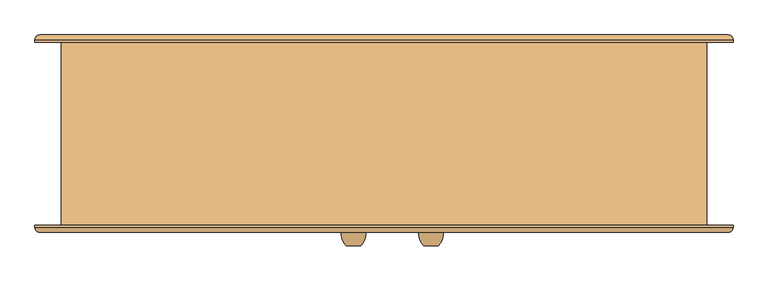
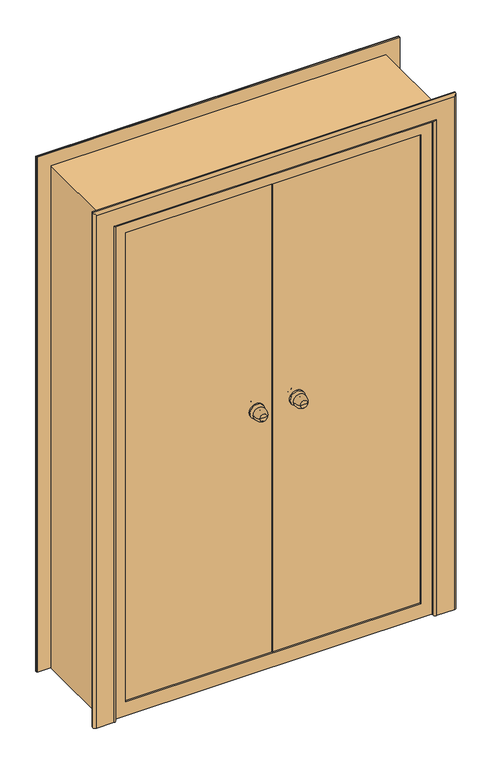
"""IFC4 building model written with IfcOpenShell, lengths in millimetres: door geometry, Наружная дверь 2-Навесная - Один проем наружу с порогом - 31173-2003 : ДСН ДКН М2 2100-1300 ГОСТ 31173-2003."""

from ifc_helpers import new_model, si_unit, point, frame, origin, place, context, project, spatial, polyline, circle_curve, ellipse_curve, trimmed, outline, extrude, faceted_brep, source, transform, mapped, element, save
from ifc_brep_helpers import plane_surface, cylinder_surface, revolved_surface, advanced_brep


def door_65913abd(model_context):
    return source(origin(), model_context, "Body", "SolidModel", [
        advanced_brep(
        [(113.0, -233.0, 1100.0), (83.0, -233.0, 1100.0), (98.0, -233.0, 1100.0), (123.0, -203.0, 1100.0), (73.0, -203.0, 1100.0), (116.0, -203.0, 1100.0), (80.0, -203.0, 1100.0), (108.0, -195.0, 1100.0), (88.0, -195.0, 1100.0), (108.0, -189.0, 1100.0), (88.0, -189.0, 1100.0), (68.0, -189.0, 1100.0), (128.0, -189.0, 1100.0), (68.0, -183.0, 1100.0), (128.0, -183.0, 1100.0)],
        [
            (0, 1, circle_curve(frame((98.0, -233.0, 1100.0), z_axis=(0.0, -1.0, 0.0), x_axis=(-1.0, 0.0, 0.0)), 15.0)),
            (1, 2),
            (2, 0),
            (1, 0, circle_curve(frame((98.0, -233.0, 1100.0), z_axis=(0.0, -1.0, 0.0), x_axis=(-1.0, 0.0, 0.0)), 15.0)),
            (0, 3, circle_curve(frame((88.3773735, -208.1257912, 1100.0), z_axis=(0.0, 0.0, 1.0), x_axis=(-1.0, 0.0, 0.0)), 35.0)),
            (3, 4, circle_curve(frame((98.0, -203.0, 1100.0), z_axis=(0.0, -1.0, 0.0), x_axis=(-1.0, 0.0, 0.0)), 25.0)),
            (4, 1, circle_curve(frame((107.6226265, -208.1257912, 1100.0), z_axis=(0.0, 0.0, 1.0), x_axis=(1.0, 0.0, 0.0)), 35.0)),
            (4, 3, circle_curve(frame((98.0, -203.0, 1100.0), z_axis=(0.0, -1.0, 0.0), x_axis=(-1.0, 0.0, 0.0)), 25.0)),
            (3, 5),
            (5, 6, circle_curve(frame((98.0, -203.0, 1100.0), z_axis=(0.0, -1.0, 0.0), x_axis=(-1.0, 0.0, 0.0)), 18.0)),
            (6, 4),
            (6, 5, circle_curve(frame((98.0, -203.0, 1100.0), z_axis=(0.0, -1.0, 0.0), x_axis=(-1.0, 0.0, 0.0)), 18.0)),
            (5, 7, circle_curve(frame((116.0, -195.0, 1100.0), z_axis=(0.0, 0.0, -1.0), x_axis=(-1.0, 0.0, 0.0)), 8.0)),
            (7, 8, circle_curve(frame((98.0, -195.0, 1100.0), z_axis=(0.0, -1.0, 0.0), x_axis=(-1.0, 0.0, 0.0)), 10.0)),
            (8, 6, circle_curve(frame((80.0, -195.0, 1100.0), z_axis=(0.0, 0.0, -1.0), x_axis=(1.0, 0.0, 0.0)), 8.0)),
            (8, 7, circle_curve(frame((98.0, -195.0, 1100.0), z_axis=(0.0, -1.0, 0.0), x_axis=(-1.0, 0.0, 0.0)), 10.0)),
            (7, 9),
            (9, 10, circle_curve(frame((98.0, -189.0, 1100.0), z_axis=(0.0, -1.0, 0.0), x_axis=(-1.0, 0.0, 0.0)), 10.0)),
            (10, 8),
            (10, 9, circle_curve(frame((98.0, -189.0, 1100.0), z_axis=(0.0, -1.0, 0.0), x_axis=(-1.0, 0.0, 0.0)), 10.0)),
            (11, 12, circle_curve(frame((98.0, -189.0, 1100.0), z_axis=(0.0, -1.0, 0.0), x_axis=(1.0, 0.0, 0.0)), 30.0)),
            (12, 11, circle_curve(frame((98.0, -189.0, 1100.0), z_axis=(0.0, -1.0, 0.0), x_axis=(1.0, 0.0, 0.0)), 30.0)),
            (13, 14, circle_curve(frame((98.0, -183.0, 1100.0), z_axis=(0.0, 1.0, 0.0), x_axis=(1.0, 0.0, 0.0)), 30.0)),
            (14, 13, circle_curve(frame((98.0, -183.0, 1100.0), z_axis=(0.0, 1.0, 0.0), x_axis=(1.0, 0.0, 0.0)), 30.0)),
            (11, 13),
            (14, 12),
        ],
        [
            plane_surface(frame((98.0, -233.0, 1100.0), z_axis=(0.0, -1.0, 0.0), x_axis=(-1.0, 0.0, 0.0))),
            revolved_surface(trimmed(ellipse_curve(frame((107.6226265, -208.1257912, 1100.0), z_axis=(0.0, 0.0, -1.0), x_axis=(1.0, 0.0, 0.0)), 35.0, 35.0), [point((83.0, -233.0, 1100.0))], [point((73.0, -203.0, 1100.0))], True, "CARTESIAN"), (98.0, -263.0, 1100.0), (0.0, 1.0, 0.0)),
            plane_surface(frame((98.0, -203.0, 1100.0), z_axis=(0.0, 1.0, 0.0), x_axis=(-1.0, 0.0, 0.0))),
            revolved_surface(trimmed(ellipse_curve(frame((80.0, -195.0, 1100.0), z_axis=(0.0, 0.0, 1.0), x_axis=(1.0, 0.0, 0.0)), 8.0, 8.0), [point((80.0, -203.0, 1100.0))], [point((88.0, -195.0, 1100.0))], True, "CARTESIAN"), (98.0, -263.0, 1100.0), (0.0, 1.0, 0.0)),
            cylinder_surface(frame((98.0, -263.0, 1100.0), z_axis=(0.0, 1.0, 0.0), x_axis=(-1.0, 0.0, 0.0)), 10.0),
            plane_surface(frame((128.0, -189.0, 1100.0), z_axis=(0.0, -1.0, 0.0), x_axis=(0.0, 0.0, 1.0))),
            plane_surface(frame((128.0, -183.0, 1100.0), z_axis=(0.0, 1.0, 0.0), x_axis=(0.0, 0.0, -1.0))),
            cylinder_surface(frame((98.0, -183.0, 1100.0), z_axis=(0.0, -1.0, 0.0), x_axis=(1.0, 0.0, 0.0)), 30.0),
        ],
        [
            (0, [[1, 2, 3]]),
            (0, [[-2, 4, -3]]),
            (1, [[-1, 5, 6, 7]]),
            (1, [[-4, -7, 8, -5]]),
            (2, [[-6, 9, 10, 11]]),
            (2, [[-8, -11, 12, -9]]),
            (3, [[-10, 13, 14, 15]]),
            (3, [[-12, -15, 16, -13]]),
            (4, [[-14, 17, 18, 19]]),
            (4, [[-16, -19, 20, -17]]),
            (5, [[21, 22], [-18, -20]]),
            (6, [[23, 24]]),
            (7, [[-21, 25, -24, 26]]),
            (7, [[-22, -26, -23, -25]]),
        ],
    ),
        advanced_brep(
        [(83.0, -93.0, 1100.0), (113.0, -93.0, 1100.0), (98.0, -93.0, 1100.0), (73.0, -123.0, 1100.0), (123.0, -123.0, 1100.0), (80.0, -123.0, 1100.0), (116.0, -123.0, 1100.0), (88.0, -131.0, 1100.0), (108.0, -131.0, 1100.0), (88.0, -137.0, 1100.0), (108.0, -137.0, 1100.0), (128.0, -137.0, 1100.0), (68.0, -137.0, 1100.0), (128.0, -143.0, 1100.0), (68.0, -143.0, 1100.0)],
        [
            (0, 1, circle_curve(frame((98.0, -93.0, 1100.0), z_axis=(0.0, 1.0, 0.0), x_axis=(1.0, 0.0, 0.0)), 15.0)),
            (1, 2),
            (2, 0),
            (1, 0, circle_curve(frame((98.0, -93.0, 1100.0), z_axis=(0.0, 1.0, 0.0), x_axis=(1.0, 0.0, 0.0)), 15.0)),
            (0, 3, circle_curve(frame((107.6226265, -117.8742088, 1100.0), z_axis=(0.0, 0.0, 1.0), x_axis=(1.0, 0.0, 0.0)), 35.0)),
            (3, 4, circle_curve(frame((98.0, -123.0, 1100.0), z_axis=(0.0, 1.0, 0.0), x_axis=(1.0, 0.0, 0.0)), 25.0)),
            (4, 1, circle_curve(frame((88.3773735, -117.8742088, 1100.0), z_axis=(0.0, 0.0, 1.0), x_axis=(-1.0, 0.0, 0.0)), 35.0)),
            (4, 3, circle_curve(frame((98.0, -123.0, 1100.0), z_axis=(0.0, 1.0, 0.0), x_axis=(1.0, 0.0, 0.0)), 25.0)),
            (3, 5),
            (5, 6, circle_curve(frame((98.0, -123.0, 1100.0), z_axis=(0.0, 1.0, 0.0), x_axis=(1.0, 0.0, 0.0)), 18.0)),
            (6, 4),
            (6, 5, circle_curve(frame((98.0, -123.0, 1100.0), z_axis=(0.0, 1.0, 0.0), x_axis=(1.0, 0.0, 0.0)), 18.0)),
            (5, 7, circle_curve(frame((80.0, -131.0, 1100.0), z_axis=(0.0, 0.0, -1.0), x_axis=(1.0, 0.0, 0.0)), 8.0)),
            (7, 8, circle_curve(frame((98.0, -131.0, 1100.0), z_axis=(0.0, 1.0, 0.0), x_axis=(1.0, 0.0, 0.0)), 10.0)),
            (8, 6, circle_curve(frame((116.0, -131.0, 1100.0), z_axis=(0.0, 0.0, -1.0), x_axis=(-1.0, 0.0, 0.0)), 8.0)),
            (8, 7, circle_curve(frame((98.0, -131.0, 1100.0), z_axis=(0.0, 1.0, 0.0), x_axis=(1.0, 0.0, 0.0)), 10.0)),
            (7, 9),
            (9, 10, circle_curve(frame((98.0, -137.0, 1100.0), z_axis=(0.0, 1.0, 0.0), x_axis=(1.0, 0.0, 0.0)), 10.0)),
            (10, 8),
            (10, 9, circle_curve(frame((98.0, -137.0, 1100.0), z_axis=(0.0, 1.0, 0.0), x_axis=(1.0, 0.0, 0.0)), 10.0)),
            (11, 12, circle_curve(frame((98.0, -137.0, 1100.0), z_axis=(0.0, 1.0, 0.0), x_axis=(-1.0, 0.0, 0.0)), 30.0)),
            (12, 11, circle_curve(frame((98.0, -137.0, 1100.0), z_axis=(0.0, 1.0, 0.0), x_axis=(-1.0, 0.0, 0.0)), 30.0)),
            (13, 14, circle_curve(frame((98.0, -143.0, 1100.0), z_axis=(0.0, -1.0, 0.0), x_axis=(-1.0, 0.0, 0.0)), 30.0)),
            (14, 13, circle_curve(frame((98.0, -143.0, 1100.0), z_axis=(0.0, -1.0, 0.0), x_axis=(-1.0, 0.0, 0.0)), 30.0)),
            (11, 13),
            (14, 12),
        ],
        [
            plane_surface(frame((98.0, -93.0, 1100.0), z_axis=(0.0, 1.0, 0.0), x_axis=(1.0, 0.0, 0.0))),
            revolved_surface(trimmed(ellipse_curve(frame((88.3773735, -117.8742088, 1100.0), z_axis=(0.0, 0.0, -1.0), x_axis=(-1.0, 0.0, 0.0)), 35.0, 35.0), [point((113.0, -93.0, 1100.0))], [point((123.0, -123.0, 1100.0))], True, "CARTESIAN"), (98.0, -63.0, 1100.0), (0.0, -1.0, 0.0)),
            plane_surface(frame((98.0, -123.0, 1100.0), z_axis=(0.0, -1.0, 0.0), x_axis=(1.0, 0.0, 0.0))),
            revolved_surface(trimmed(ellipse_curve(frame((116.0, -131.0, 1100.0), z_axis=(0.0, 0.0, 1.0), x_axis=(-1.0, 0.0, 0.0)), 8.0, 8.0), [point((116.0, -123.0, 1100.0))], [point((108.0, -131.0, 1100.0))], True, "CARTESIAN"), (98.0, -63.0, 1100.0), (0.0, -1.0, 0.0)),
            cylinder_surface(frame((98.0, -63.0, 1100.0), z_axis=(0.0, -1.0, 0.0), x_axis=(1.0, 0.0, 0.0)), 10.0),
            plane_surface(frame((68.0, -137.0, 1100.0), z_axis=(0.0, 1.0, 0.0), x_axis=(0.0, 0.0, 1.0))),
            plane_surface(frame((68.0, -143.0, 1100.0), z_axis=(0.0, -1.0, 0.0), x_axis=(0.0, 0.0, -1.0))),
            cylinder_surface(frame((98.0, -143.0, 1100.0), z_axis=(0.0, 1.0, 0.0), x_axis=(-1.0, 0.0, 0.0)), 30.0),
        ],
        [
            (0, [[1, 2, 3]]),
            (0, [[-2, 4, -3]]),
            (1, [[-1, 5, 6, 7]]),
            (1, [[-4, -7, 8, -5]]),
            (2, [[-6, 9, 10, 11]]),
            (2, [[-8, -11, 12, -9]]),
            (3, [[-10, 13, 14, 15]]),
            (3, [[-12, -15, 16, -13]]),
            (4, [[-14, 17, 18, 19]]),
            (4, [[-16, -19, 20, -17]]),
            (5, [[21, 22], [-18, -20]]),
            (6, [[23, 24]]),
            (7, [[-21, 25, -24, 26]]),
            (7, [[-22, -26, -23, -25]]),
        ],
    ),
        advanced_brep(
        [(-48.0, -233.0, 1100.0), (-78.0, -233.0, 1100.0), (-63.0, -233.0, 1100.0), (-38.0, -203.0, 1100.0), (-88.0, -203.0, 1100.0), (-45.0, -203.0, 1100.0), (-81.0, -203.0, 1100.0), (-53.0, -195.0, 1100.0), (-73.0, -195.0, 1100.0), (-53.0, -189.0, 1100.0), (-73.0, -189.0, 1100.0), (-93.0, -189.0, 1100.0), (-33.0, -189.0, 1100.0), (-93.0, -183.0, 1100.0), (-33.0, -183.0, 1100.0)],
        [
            (0, 1, circle_curve(frame((-63.0, -233.0, 1100.0), z_axis=(0.0, -1.0, 0.0), x_axis=(-1.0, 0.0, 0.0)), 15.0)),
            (1, 2),
            (2, 0),
            (1, 0, circle_curve(frame((-63.0, -233.0, 1100.0), z_axis=(0.0, -1.0, 0.0), x_axis=(-1.0, 0.0, 0.0)), 15.0)),
            (0, 3, circle_curve(frame((-72.6226265, -208.1257912, 1100.0), z_axis=(0.0, 0.0, 1.0), x_axis=(-1.0, 0.0, 0.0)), 35.0)),
            (3, 4, circle_curve(frame((-63.0, -203.0, 1100.0), z_axis=(0.0, -1.0, 0.0), x_axis=(-1.0, 0.0, 0.0)), 25.0)),
            (4, 1, circle_curve(frame((-53.3773735, -208.1257912, 1100.0), z_axis=(0.0, 0.0, 1.0), x_axis=(1.0, 0.0, 0.0)), 35.0)),
            (4, 3, circle_curve(frame((-63.0, -203.0, 1100.0), z_axis=(0.0, -1.0, 0.0), x_axis=(-1.0, 0.0, 0.0)), 25.0)),
            (3, 5),
            (5, 6, circle_curve(frame((-63.0, -203.0, 1100.0), z_axis=(0.0, -1.0, 0.0), x_axis=(-1.0, 0.0, 0.0)), 18.0)),
            (6, 4),
            (6, 5, circle_curve(frame((-63.0, -203.0, 1100.0), z_axis=(0.0, -1.0, 0.0), x_axis=(-1.0, 0.0, 0.0)), 18.0)),
            (5, 7, circle_curve(frame((-45.0, -195.0, 1100.0), z_axis=(0.0, 0.0, -1.0), x_axis=(-1.0, 0.0, 0.0)), 8.0)),
            (7, 8, circle_curve(frame((-63.0, -195.0, 1100.0), z_axis=(0.0, -1.0, 0.0), x_axis=(-1.0, 0.0, 0.0)), 10.0)),
            (8, 6, circle_curve(frame((-81.0, -195.0, 1100.0), z_axis=(0.0, 0.0, -1.0), x_axis=(1.0, 0.0, 0.0)), 8.0)),
            (8, 7, circle_curve(frame((-63.0, -195.0, 1100.0), z_axis=(0.0, -1.0, 0.0), x_axis=(-1.0, 0.0, 0.0)), 10.0)),
            (7, 9),
            (9, 10, circle_curve(frame((-63.0, -189.0, 1100.0), z_axis=(0.0, -1.0, 0.0), x_axis=(-1.0, 0.0, 0.0)), 10.0)),
            (10, 8),
            (10, 9, circle_curve(frame((-63.0, -189.0, 1100.0), z_axis=(0.0, -1.0, 0.0), x_axis=(-1.0, 0.0, 0.0)), 10.0)),
            (11, 12, circle_curve(frame((-63.0, -189.0, 1100.0), z_axis=(0.0, -1.0, 0.0), x_axis=(1.0, 0.0, 0.0)), 30.0)),
            (12, 11, circle_curve(frame((-63.0, -189.0, 1100.0), z_axis=(0.0, -1.0, 0.0), x_axis=(1.0, 0.0, 0.0)), 30.0)),
            (13, 14, circle_curve(frame((-63.0, -183.0, 1100.0), z_axis=(0.0, 1.0, 0.0), x_axis=(1.0, 0.0, 0.0)), 30.0)),
            (14, 13, circle_curve(frame((-63.0, -183.0, 1100.0), z_axis=(0.0, 1.0, 0.0), x_axis=(1.0, 0.0, 0.0)), 30.0)),
            (11, 13),
            (14, 12),
        ],
        [
            plane_surface(frame((-63.0, -233.0, 1100.0), z_axis=(0.0, -1.0, 0.0), x_axis=(-1.0, 0.0, 0.0))),
            revolved_surface(trimmed(ellipse_curve(frame((-53.3773735, -208.1257912, 1100.0), z_axis=(0.0, 0.0, -1.0), x_axis=(1.0, 0.0, 0.0)), 35.0, 35.0), [point((-78.0, -233.0, 1100.0))], [point((-88.0, -203.0, 1100.0))], True, "CARTESIAN"), (-63.0, -263.0, 1100.0), (0.0, 1.0, 0.0)),
            plane_surface(frame((-63.0, -203.0, 1100.0), z_axis=(0.0, 1.0, 0.0), x_axis=(-1.0, 0.0, 0.0))),
            revolved_surface(trimmed(ellipse_curve(frame((-81.0, -195.0, 1100.0), z_axis=(0.0, 0.0, 1.0), x_axis=(1.0, 0.0, 0.0)), 8.0, 8.0), [point((-81.0, -203.0, 1100.0))], [point((-73.0, -195.0, 1100.0))], True, "CARTESIAN"), (-63.0, -263.0, 1100.0), (0.0, 1.0, 0.0)),
            cylinder_surface(frame((-63.0, -263.0, 1100.0), z_axis=(0.0, 1.0, 0.0), x_axis=(-1.0, 0.0, 0.0)), 10.0),
            plane_surface(frame((-33.0, -189.0, 1100.0), z_axis=(0.0, -1.0, 0.0), x_axis=(0.0, 0.0, 1.0))),
            plane_surface(frame((-33.0, -183.0, 1100.0), z_axis=(0.0, 1.0, 0.0), x_axis=(0.0, 0.0, -1.0))),
            cylinder_surface(frame((-63.0, -183.0, 1100.0), z_axis=(0.0, -1.0, 0.0), x_axis=(1.0, 0.0, 0.0)), 30.0),
        ],
        [
            (0, [[1, 2, 3]]),
            (0, [[-2, 4, -3]]),
            (1, [[-1, 5, 6, 7]]),
            (1, [[-4, -7, 8, -5]]),
            (2, [[-6, 9, 10, 11]]),
            (2, [[-8, -11, 12, -9]]),
            (3, [[-10, 13, 14, 15]]),
            (3, [[-12, -15, 16, -13]]),
            (4, [[-14, 17, 18, 19]]),
            (4, [[-16, -19, 20, -17]]),
            (5, [[21, 22], [-18, -20]]),
            (6, [[23, 24]]),
            (7, [[-21, 25, -24, 26]]),
            (7, [[-22, -26, -23, -25]]),
        ],
    ),
        advanced_brep(
        [(-78.0, -93.0, 1100.0), (-48.0, -93.0, 1100.0), (-63.0, -93.0, 1100.0), (-88.0, -123.0, 1100.0), (-38.0, -123.0, 1100.0), (-81.0, -123.0, 1100.0), (-45.0, -123.0, 1100.0), (-73.0, -131.0, 1100.0), (-53.0, -131.0, 1100.0), (-73.0, -137.0, 1100.0), (-53.0, -137.0, 1100.0), (-33.0, -137.0, 1100.0), (-93.0, -137.0, 1100.0), (-33.0, -143.0, 1100.0), (-93.0, -143.0, 1100.0)],
        [
            (0, 1, circle_curve(frame((-63.0, -93.0, 1100.0), z_axis=(0.0, 1.0, 0.0), x_axis=(1.0, 0.0, 0.0)), 15.0)),
            (1, 2),
            (2, 0),
            (1, 0, circle_curve(frame((-63.0, -93.0, 1100.0), z_axis=(0.0, 1.0, 0.0), x_axis=(1.0, 0.0, 0.0)), 15.0)),
            (0, 3, circle_curve(frame((-53.3773735, -117.8742088, 1100.0), z_axis=(0.0, 0.0, 1.0), x_axis=(1.0, 0.0, 0.0)), 35.0)),
            (3, 4, circle_curve(frame((-63.0, -123.0, 1100.0), z_axis=(0.0, 1.0, 0.0), x_axis=(1.0, 0.0, 0.0)), 25.0)),
            (4, 1, circle_curve(frame((-72.6226265, -117.8742088, 1100.0), z_axis=(0.0, 0.0, 1.0), x_axis=(-1.0, 0.0, 0.0)), 35.0)),
            (4, 3, circle_curve(frame((-63.0, -123.0, 1100.0), z_axis=(0.0, 1.0, 0.0), x_axis=(1.0, 0.0, 0.0)), 25.0)),
            (3, 5),
            (5, 6, circle_curve(frame((-63.0, -123.0, 1100.0), z_axis=(0.0, 1.0, 0.0), x_axis=(1.0, 0.0, 0.0)), 18.0)),
            (6, 4),
            (6, 5, circle_curve(frame((-63.0, -123.0, 1100.0), z_axis=(0.0, 1.0, 0.0), x_axis=(1.0, 0.0, 0.0)), 18.0)),
            (5, 7, circle_curve(frame((-81.0, -131.0, 1100.0), z_axis=(0.0, 0.0, -1.0), x_axis=(1.0, 0.0, 0.0)), 8.0)),
            (7, 8, circle_curve(frame((-63.0, -131.0, 1100.0), z_axis=(0.0, 1.0, 0.0), x_axis=(1.0, 0.0, 0.0)), 10.0)),
            (8, 6, circle_curve(frame((-45.0, -131.0, 1100.0), z_axis=(0.0, 0.0, -1.0), x_axis=(-1.0, 0.0, 0.0)), 8.0)),
            (8, 7, circle_curve(frame((-63.0, -131.0, 1100.0), z_axis=(0.0, 1.0, 0.0), x_axis=(1.0, 0.0, 0.0)), 10.0)),
            (7, 9),
            (9, 10, circle_curve(frame((-63.0, -137.0, 1100.0), z_axis=(0.0, 1.0, 0.0), x_axis=(1.0, 0.0, 0.0)), 10.0)),
            (10, 8),
            (10, 9, circle_curve(frame((-63.0, -137.0, 1100.0), z_axis=(0.0, 1.0, 0.0), x_axis=(1.0, 0.0, 0.0)), 10.0)),
            (11, 12, circle_curve(frame((-63.0, -137.0, 1100.0), z_axis=(0.0, 1.0, 0.0), x_axis=(-1.0, 0.0, 0.0)), 30.0)),
            (12, 11, circle_curve(frame((-63.0, -137.0, 1100.0), z_axis=(0.0, 1.0, 0.0), x_axis=(-1.0, 0.0, 0.0)), 30.0)),
            (13, 14, circle_curve(frame((-63.0, -143.0, 1100.0), z_axis=(0.0, -1.0, 0.0), x_axis=(-1.0, 0.0, 0.0)), 30.0)),
            (14, 13, circle_curve(frame((-63.0, -143.0, 1100.0), z_axis=(0.0, -1.0, 0.0), x_axis=(-1.0, 0.0, 0.0)), 30.0)),
            (11, 13),
            (14, 12),
        ],
        [
            plane_surface(frame((-63.0, -93.0, 1100.0), z_axis=(0.0, 1.0, 0.0), x_axis=(1.0, 0.0, 0.0))),
            revolved_surface(trimmed(ellipse_curve(frame((-72.6226265, -117.8742088, 1100.0), z_axis=(0.0, 0.0, -1.0), x_axis=(-1.0, 0.0, 0.0)), 35.0, 35.0), [point((-48.0, -93.0, 1100.0))], [point((-38.0, -123.0, 1100.0))], True, "CARTESIAN"), (-63.0, -63.0, 1100.0), (0.0, -1.0, 0.0)),
            plane_surface(frame((-63.0, -123.0, 1100.0), z_axis=(0.0, -1.0, 0.0), x_axis=(1.0, 0.0, 0.0))),
            revolved_surface(trimmed(ellipse_curve(frame((-45.0, -131.0, 1100.0), z_axis=(0.0, 0.0, 1.0), x_axis=(-1.0, 0.0, 0.0)), 8.0, 8.0), [point((-45.0, -123.0, 1100.0))], [point((-53.0, -131.0, 1100.0))], True, "CARTESIAN"), (-63.0, -63.0, 1100.0), (0.0, -1.0, 0.0)),
            cylinder_surface(frame((-63.0, -63.0, 1100.0), z_axis=(0.0, -1.0, 0.0), x_axis=(1.0, 0.0, 0.0)), 10.0),
            plane_surface(frame((-93.0, -137.0, 1100.0), z_axis=(0.0, 1.0, 0.0), x_axis=(0.0, 0.0, 1.0))),
            plane_surface(frame((-93.0, -143.0, 1100.0), z_axis=(0.0, -1.0, 0.0), x_axis=(0.0, 0.0, -1.0))),
            cylinder_surface(frame((-63.0, -143.0, 1100.0), z_axis=(0.0, 1.0, 0.0), x_axis=(-1.0, 0.0, 0.0)), 30.0),
        ],
        [
            (0, [[1, 2, 3]]),
            (0, [[-2, 4, -3]]),
            (1, [[-1, 5, 6, 7]]),
            (1, [[-4, -7, 8, -5]]),
            (2, [[-6, 9, 10, 11]]),
            (2, [[-8, -11, 12, -9]]),
            (3, [[-10, 13, 14, 15]]),
            (3, [[-12, -15, 16, -13]]),
            (4, [[-14, 17, 18, 19]]),
            (4, [[-16, -19, 20, -17]]),
            (5, [[21, 22], [-18, -20]]),
            (6, [[23, 24]]),
            (7, [[-21, 25, -24, 26]]),
            (7, [[-22, -26, -23, -25]]),
        ],
    ),
        faceted_brep([(38.0, -143.0, 25.0), (625.0, -143.0, 25.0), (625.0, -148.0, 25.0), (38.0, -148.0, 25.0), (38.0, -143.0, 2075.0), (625.0, -143.0, 2075.0), (625.0, -148.0, 2075.0), (38.0, -148.0, 2075.0), (38.0, -148.0, 2055.0), (605.0, -148.0, 2055.0), (605.0, -148.0, 45.0), (38.0, -148.0, 45.0), (38.0, -164.0, 45.0), (38.0, -164.0, 2055.0), (605.0, -183.0, 2055.0), (605.0, -183.0, 45.0), (3.0, -183.0, 45.0), (3.0, -164.0, 45.0), (3.0, -183.0, 2055.0), (3.0, -164.0, 2055.0)], [[[0, 1, 2, 3]], [[4, 5, 1, 0]], [[5, 6, 2, 1]], [[6, 7, 8, 9, 10, 11, 3, 2]], [[4, 0, 3, 11, 12, 13, 8, 7]], [[9, 14, 15, 10]], [[11, 10, 15, 16, 17, 12]], [[14, 18, 16, 15]], [[18, 19, 17, 16]], [[19, 13, 12, 17]], [[9, 8, 13, 19, 18, 14]], [[6, 5, 4, 7]]]),
        faceted_brep([(32.0, -148.0, 25.0), (-625.0, -148.0, 25.0), (-625.0, -143.0, 25.0), (32.0, -143.0, 25.0), (32.0, -148.0, 45.0), (-605.0, -148.0, 45.0), (-605.0, -148.0, 2055.0), (32.0, -148.0, 2055.0), (32.0, -148.0, 2075.0), (-625.0, -148.0, 2075.0), (-625.0, -143.0, 2075.0), (32.0, -143.0, 2075.0), (32.0, -158.0, 2055.0), (32.0, -158.0, 45.0), (-3.0, -158.0, 45.0), (-3.0, -183.0, 45.0), (-605.0, -183.0, 45.0), (-605.0, -183.0, 2055.0), (-3.0, -183.0, 2055.0), (-3.0, -158.0, 2055.0)], [[[0, 1, 2, 3]], [[0, 4, 5, 6, 7, 8, 9, 1]], [[1, 9, 10, 2]], [[10, 11, 3, 2]], [[3, 11, 8, 7, 12, 13, 4, 0]], [[5, 4, 13, 14, 15, 16]], [[17, 6, 5, 16]], [[18, 17, 16, 15]], [[19, 18, 15, 14]], [[12, 19, 14, 13]], [[11, 10, 9, 8]], [[7, 6, 17, 18, 19, 12]]]),
        extrude(outline(polyline([(0.0, 635.0), (0.0, 650.0), (2100.0, 650.0), (2100.0, -650.0), (0.0, -650.0), (0.0, -635.0), (2085.0, -635.0), (2085.0, 635.0), (0.0, 635.0)])), frame((0.0, -150.0, 0.0), z_axis=(0.0, 1.0, 0.0), x_axis=(0.0, 0.0, 1.0)), (0.0, 0.0, 1.0), 340.0),
        faceted_brep([(650.0, -150.0, 0.0), (650.0, -190.0, 0.0), (-650.0, -190.0, 0.0), (-650.0, -150.0, 0.0), (-650.0, -190.0, 2100.0), (-650.0, -150.0, 2100.0), (650.0, -190.0, 2100.0), (-590.0, -190.0, 2040.0), (590.0, -190.0, 2040.0), (590.0, -190.0, 60.0), (-590.0, -190.0, 60.0), (650.0, -150.0, 2100.0), (-610.0, -150.0, 40.0), (610.0, -150.0, 40.0), (610.0, -150.0, 2060.0), (-610.0, -150.0, 2060.0), (610.0, -185.0, 40.0), (-610.0, -185.0, 40.0), (-610.0, -185.0, 2060.0), (610.0, -185.0, 2060.0), (-590.0, -185.0, 60.0), (590.0, -185.0, 60.0), (590.0, -185.0, 2040.0), (-590.0, -185.0, 2040.0)], [[[0, 1, 2, 3]], [[3, 2, 4, 5]], [[2, 1, 6, 4], [7, 8, 9, 10]], [[5, 11, 0, 3], [12, 13, 14, 15]], [[16, 13, 12, 17]], [[17, 12, 15, 18]], [[18, 19, 16, 17], [20, 21, 22, 23]], [[9, 21, 20, 10]], [[10, 20, 23, 7]], [[11, 6, 1, 0]], [[19, 14, 13, 16]], [[8, 22, 21, 9]], [[5, 4, 6, 11]], [[18, 15, 14, 19]], [[7, 23, 22, 8]]]),
        advanced_brep(
        [(-725.0, -190.0, 0.0), (-635.0, -190.0, 0.0), (-635.0, -195.0, 0.0), (-645.0, -205.0, 0.0), (-715.0, -205.0, 0.0), (-725.0, -195.0, 0.0), (-725.0, -190.0, 2175.0), (725.0, -190.0, 2175.0), (725.0, -190.0, 0.0), (635.0, -190.0, 0.0), (635.0, -190.0, 2085.0), (-635.0, -190.0, 2085.0), (-635.0, -195.0, 2085.0), (-645.0, -205.0, 2095.0), (645.0, -205.0, 2095.0), (645.0, -205.0, 0.0), (715.0, -205.0, 0.0), (715.0, -205.0, 2165.0), (-715.0, -205.0, 2165.0), (-725.0, -195.0, 2175.0), (725.0, -195.0, 2175.0), (725.0, -195.0, 0.0), (635.0, -195.0, 0.0), (635.0, -195.0, 2085.0)],
        [
            (0, 1),
            (1, 2),
            (2, 3, circle_curve(frame((-645.0, -195.0, 0.0), z_axis=(0.0, 0.0, -1.0), x_axis=(-1.0, 0.0, 0.0)), 10.0)),
            (3, 4),
            (4, 5, circle_curve(frame((-715.0, -195.0, 0.0), z_axis=(0.0, 0.0, -1.0), x_axis=(-1.0, 0.0, 0.0)), 10.0)),
            (5, 0),
            (0, 6),
            (6, 7),
            (7, 8),
            (8, 9),
            (9, 10),
            (10, 11),
            (11, 1),
            (11, 12),
            (12, 2),
            (12, 13, ellipse_curve(frame((-645.0, -195.0, 2095.0), z_axis=(-0.7071067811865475, 0.0, -0.7071067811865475), x_axis=(0.7071067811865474, 0.0, -0.7071067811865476)), 14.1421356, 10.0)),
            (13, 3),
            (13, 14),
            (14, 15),
            (15, 16),
            (16, 17),
            (17, 18),
            (18, 4),
            (18, 19, ellipse_curve(frame((-715.0, -195.0, 2165.0), z_axis=(-0.7071067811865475, 0.0, -0.7071067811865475), x_axis=(0.7071067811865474, 0.0, -0.7071067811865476)), 14.1421356, 10.0)),
            (19, 5),
            (19, 6),
            (7, 20),
            (20, 21),
            (21, 8),
            (21, 16, circle_curve(frame((715.0, -195.0, 0.0), z_axis=(0.0, 0.0, -1.0), x_axis=(1.0, 0.0, 0.0)), 10.0)),
            (15, 22, circle_curve(frame((645.0, -195.0, 0.0), z_axis=(0.0, 0.0, -1.0), x_axis=(1.0, 0.0, 0.0)), 10.0)),
            (22, 9),
            (23, 10),
            (22, 23),
            (14, 23, ellipse_curve(frame((645.0, -195.0, 2095.0), z_axis=(0.7071067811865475, 0.0, -0.7071067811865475), x_axis=(0.7071067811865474, 0.0, 0.7071067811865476)), 14.1421356, 10.0)),
            (20, 17, ellipse_curve(frame((715.0, -195.0, 2165.0), z_axis=(0.7071067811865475, 0.0, -0.7071067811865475), x_axis=(0.7071067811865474, 0.0, 0.7071067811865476)), 14.1421356, 10.0)),
            (23, 12),
            (20, 19),
        ],
        [
            plane_surface(frame((-670.0, -190.0, 0.0), z_axis=(0.0, 0.0, -1.0), x_axis=(0.0, -1.0, 0.0))),
            plane_surface(frame((-725.0, -190.0, 0.0), z_axis=(0.0, 1.0, 0.0), x_axis=(0.0, 0.0, 1.0))),
            plane_surface(frame((-635.0, -190.0, 0.0), z_axis=(1.0, 0.0, 0.0), x_axis=(0.0, 0.0, 1.0))),
            cylinder_surface(frame((-645.0, -195.0, 0.0), z_axis=(0.0, 0.0, -1.0), x_axis=(-1.0, 0.0, 0.0)), 10.0),
            plane_surface(frame((-645.0, -205.0, 0.0), z_axis=(0.0, -1.0, 0.0), x_axis=(0.0, 0.0, 1.0))),
            cylinder_surface(frame((-715.0, -195.0, 0.0), z_axis=(0.0, 0.0, -1.0), x_axis=(-1.0, 0.0, 0.0)), 10.0),
            plane_surface(frame((-725.0, -195.0, 0.0), z_axis=(-1.0, 0.0, 0.0), x_axis=(0.0, 0.0, 1.0))),
            plane_surface(frame((725.0, -195.0, 2175.0), z_axis=(1.0, 0.0, 0.0), x_axis=(0.0, 0.0, -1.0))),
            plane_surface(frame((670.0, -190.0, 0.0), z_axis=(0.0, 0.0, -1.0), x_axis=(0.0, -1.0, 0.0))),
            plane_surface(frame((635.0, -190.0, 2085.0), z_axis=(-1.0, 0.0, 0.0), x_axis=(0.0, 0.0, -1.0))),
            cylinder_surface(frame((645.0, -195.0, 2120.0), z_axis=(0.0, 0.0, 1.0), x_axis=(1.0, 0.0, 0.0)), 10.0),
            cylinder_surface(frame((715.0, -195.0, 2120.0), z_axis=(0.0, 0.0, 1.0), x_axis=(1.0, 0.0, 0.0)), 10.0),
            plane_surface(frame((-635.0, -190.0, 2085.0), z_axis=(0.0, 0.0, -1.0), x_axis=(1.0, 0.0, 0.0))),
            cylinder_surface(frame((-670.0, -195.0, 2095.0), z_axis=(-1.0, 0.0, 0.0), x_axis=(0.0, 0.0, 1.0)), 10.0),
            cylinder_surface(frame((-670.0, -195.0, 2165.0), z_axis=(-1.0, 0.0, 0.0), x_axis=(0.0, 0.0, 1.0)), 10.0),
            plane_surface(frame((-725.0, -195.0, 2175.0), z_axis=(0.0, 0.0, 1.0), x_axis=(1.0, 0.0, 0.0))),
        ],
        [
            (0, [[1, 2, 3, 4, 5, 6]]),
            (1, [[-1, 7, 8, 9, 10, 11, 12, 13]]),
            (2, [[-2, -13, 14, 15]]),
            (3, [[-3, -15, 16, 17]]),
            (4, [[-4, -17, 18, 19, 20, 21, 22, 23]]),
            (5, [[-5, -23, 24, 25]]),
            (6, [[-6, -25, 26, -7]]),
            (7, [[27, 28, 29, -9]]),
            (8, [[-29, 30, -20, 31, 32, -10]]),
            (9, [[33, -11, -32, 34]]),
            (10, [[35, -34, -31, -19]]),
            (11, [[36, -21, -30, -28]]),
            (12, [[-14, -12, -33, 37]]),
            (13, [[-16, -37, -35, -18]]),
            (14, [[-24, -22, -36, 38]]),
            (15, [[-26, -38, -27, -8]]),
        ],
    ),
        advanced_brep(
        [(725.0, 190.0, 0.0), (635.0, 190.0, 0.0), (635.0, 195.0, 0.0), (645.0, 205.0, 0.0), (715.0, 205.0, 0.0), (725.0, 195.0, 0.0), (725.0, 190.0, 2175.0), (-725.0, 190.0, 2175.0), (-725.0, 190.0, 0.0), (-635.0, 190.0, 0.0), (-635.0, 190.0, 2085.0), (635.0, 190.0, 2085.0), (635.0, 195.0, 2085.0), (645.0, 205.0, 2095.0), (-645.0, 205.0, 2095.0), (-645.0, 205.0, 0.0), (-715.0, 205.0, 0.0), (-715.0, 205.0, 2165.0), (715.0, 205.0, 2165.0), (725.0, 195.0, 2175.0), (-725.0, 195.0, 2175.0), (-725.0, 195.0, 0.0), (-635.0, 195.0, 0.0), (-635.0, 195.0, 2085.0)],
        [
            (0, 1),
            (1, 2),
            (2, 3, circle_curve(frame((645.0, 195.0, 0.0), z_axis=(0.0, 0.0, -1.0), x_axis=(1.0, 0.0, 0.0)), 10.0)),
            (3, 4),
            (4, 5, circle_curve(frame((715.0, 195.0, 0.0), z_axis=(0.0, 0.0, -1.0), x_axis=(1.0, 0.0, 0.0)), 10.0)),
            (5, 0),
            (0, 6),
            (6, 7),
            (7, 8),
            (8, 9),
            (9, 10),
            (10, 11),
            (11, 1),
            (11, 12),
            (12, 2),
            (12, 13, ellipse_curve(frame((645.0, 195.0, 2095.0), z_axis=(0.7071067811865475, 0.0, -0.7071067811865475), x_axis=(-0.7071067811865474, 0.0, -0.7071067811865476)), 14.1421356, 10.0)),
            (13, 3),
            (13, 14),
            (14, 15),
            (15, 16),
            (16, 17),
            (17, 18),
            (18, 4),
            (18, 19, ellipse_curve(frame((715.0, 195.0, 2165.0), z_axis=(0.7071067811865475, 0.0, -0.7071067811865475), x_axis=(-0.7071067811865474, 0.0, -0.7071067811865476)), 14.1421356, 10.0)),
            (19, 5),
            (19, 6),
            (7, 20),
            (20, 21),
            (21, 8),
            (21, 16, circle_curve(frame((-715.0, 195.0, 0.0), z_axis=(0.0, 0.0, -1.0), x_axis=(-1.0, 0.0, 0.0)), 10.0)),
            (15, 22, circle_curve(frame((-645.0, 195.0, 0.0), z_axis=(0.0, 0.0, -1.0), x_axis=(-1.0, 0.0, 0.0)), 10.0)),
            (22, 9),
            (23, 10),
            (22, 23),
            (14, 23, ellipse_curve(frame((-645.0, 195.0, 2095.0), z_axis=(-0.7071067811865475, 0.0, -0.7071067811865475), x_axis=(-0.7071067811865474, 0.0, 0.7071067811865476)), 14.1421356, 10.0)),
            (20, 17, ellipse_curve(frame((-715.0, 195.0, 2165.0), z_axis=(-0.7071067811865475, 0.0, -0.7071067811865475), x_axis=(-0.7071067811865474, 0.0, 0.7071067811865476)), 14.1421356, 10.0)),
            (23, 12),
            (20, 19),
        ],
        [
            plane_surface(frame((670.0, 190.0, 0.0), z_axis=(0.0, 0.0, -1.0), x_axis=(0.0, -1.0, 0.0))),
            plane_surface(frame((725.0, 190.0, 0.0), z_axis=(0.0, -1.0, 0.0), x_axis=(0.0, 0.0, 1.0))),
            plane_surface(frame((635.0, 190.0, 0.0), z_axis=(-1.0, 0.0, 0.0), x_axis=(0.0, 0.0, 1.0))),
            cylinder_surface(frame((645.0, 195.0, 0.0), z_axis=(0.0, 0.0, -1.0), x_axis=(1.0, 0.0, 0.0)), 10.0),
            plane_surface(frame((645.0, 205.0, 0.0), z_axis=(0.0, 1.0, 0.0), x_axis=(0.0, 0.0, 1.0))),
            cylinder_surface(frame((715.0, 195.0, 0.0), z_axis=(0.0, 0.0, -1.0), x_axis=(1.0, 0.0, 0.0)), 10.0),
            plane_surface(frame((725.0, 195.0, 0.0), z_axis=(1.0, 0.0, 0.0), x_axis=(0.0, 0.0, 1.0))),
            plane_surface(frame((-725.0, 195.0, 2175.0), z_axis=(-1.0, 0.0, 0.0), x_axis=(0.0, 0.0, -1.0))),
            plane_surface(frame((-670.0, 190.0, 0.0), z_axis=(0.0, 0.0, -1.0), x_axis=(0.0, -1.0, 0.0))),
            plane_surface(frame((-635.0, 190.0, 2085.0), z_axis=(1.0, 0.0, 0.0), x_axis=(0.0, 0.0, -1.0))),
            cylinder_surface(frame((-645.0, 195.0, 2120.0), z_axis=(0.0, 0.0, 1.0), x_axis=(-1.0, 0.0, 0.0)), 10.0),
            cylinder_surface(frame((-715.0, 195.0, 2120.0), z_axis=(0.0, 0.0, 1.0), x_axis=(-1.0, 0.0, 0.0)), 10.0),
            plane_surface(frame((635.0, 190.0, 2085.0), z_axis=(0.0, 0.0, -1.0), x_axis=(-1.0, 0.0, 0.0))),
            cylinder_surface(frame((670.0, 195.0, 2095.0), z_axis=(1.0, 0.0, 0.0), x_axis=(0.0, 0.0, 1.0)), 10.0),
            cylinder_surface(frame((670.0, 195.0, 2165.0), z_axis=(1.0, 0.0, 0.0), x_axis=(0.0, 0.0, 1.0)), 10.0),
            plane_surface(frame((725.0, 195.0, 2175.0), z_axis=(0.0, 0.0, 1.0), x_axis=(-1.0, 0.0, 0.0))),
        ],
        [
            (0, [[1, 2, 3, 4, 5, 6]]),
            (1, [[-1, 7, 8, 9, 10, 11, 12, 13]]),
            (2, [[-2, -13, 14, 15]]),
            (3, [[-3, -15, 16, 17]]),
            (4, [[-4, -17, 18, 19, 20, 21, 22, 23]]),
            (5, [[-5, -23, 24, 25]]),
            (6, [[-6, -25, 26, -7]]),
            (7, [[27, 28, 29, -9]]),
            (8, [[-29, 30, -20, 31, 32, -10]]),
            (9, [[33, -11, -32, 34]]),
            (10, [[35, -34, -31, -19]]),
            (11, [[36, -21, -30, -28]]),
            (12, [[-14, -12, -33, 37]]),
            (13, [[-16, -37, -35, -18]]),
            (14, [[-24, -22, -36, 38]]),
            (15, [[-26, -38, -27, -8]]),
        ],
    ),
        extrude(outline(polyline([(0.0, 650.0), (0.0, 670.0), (2120.0, 670.0), (2120.0, -670.0), (0.0, -670.0), (0.0, -650.0), (2100.0, -650.0), (2100.0, 650.0), (0.0, 650.0)])), frame((0.0, -190.0, 0.0), z_axis=(0.0, 1.0, 0.0), x_axis=(0.0, 0.0, 1.0)), (0.0, 0.0, 1.0), 380.0),
    ])


if __name__ == "__main__":
    model = new_model("IFC4")
    model_context = context("Model", 3, world=origin())
    ifc_project = project(units=[si_unit("LENGTHUNIT", "METRE", prefix="MILLI")], contexts=[model_context])
    site = spatial("IfcSite", under=ifc_project)
    building = spatial("IfcBuilding", under=site)
    placement = place(None, origin())
    door_shape = door_65913abd(model_context)
    element("IfcDoor", 1, ObjectType="Наружная дверь 2-Навесная - Один проем наружу с порогом - 31173-2003 : ДСН ДКН М2 2100-1300 ГОСТ 31173-2003", at=placement, inside=building, context=model_context, shape_type="MappedRepresentation", body=[
        mapped(door_shape, transform((0.0, 0.0, 0.0), x_axis=(1.0, 0.0, 0.0), y_axis=(0.0, 1.0, 0.0), z_axis=(0.0, 0.0, 1.0))),
    ])
    save(model, "model.ifc")
